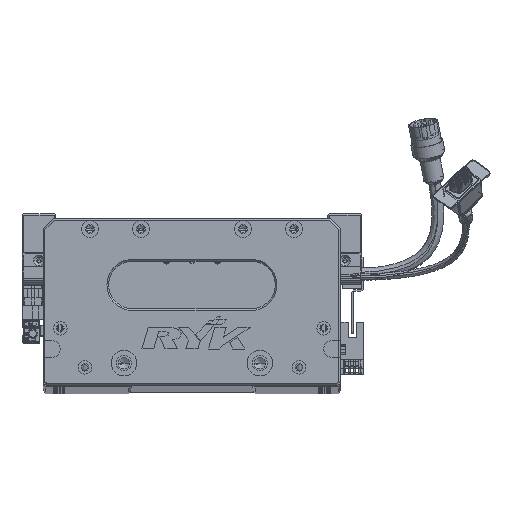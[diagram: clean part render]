
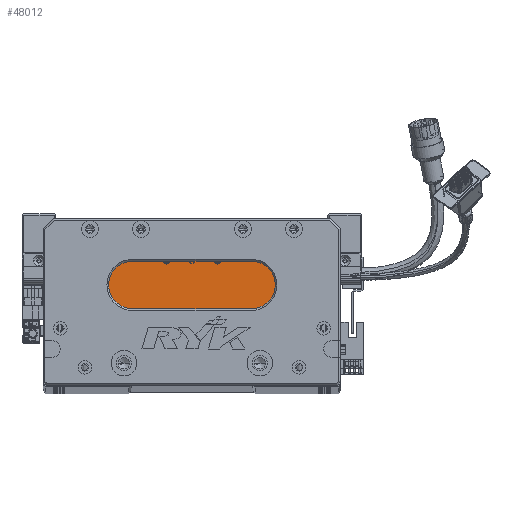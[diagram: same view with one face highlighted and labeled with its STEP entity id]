
A CAD part, top view. The second image highlights one B-rep face of the part: STEP entity #48012.
In plain terms, the highlighted planar face has unit normal (0, 0, 1) as drawn and (0, 0, -1) by its records, which use the part's own axes.
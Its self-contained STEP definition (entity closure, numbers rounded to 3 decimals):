
#136 = CIRCLE ( 'NONE', #45350, 14. ) ;
#5657 = VERTEX_POINT ( 'NONE', #31439 ) ;
#5894 = DIRECTION ( 'NONE',  ( 0., 0., -1. ) ) ;
#7062 = AXIS2_PLACEMENT_3D ( 'NONE', #45857, #110741, #19027 ) ;
#7070 = AXIS2_PLACEMENT_3D ( 'NONE', #111980, #28702, #110789 ) ;
#8471 = CIRCLE ( 'NONE', #7062, 14. ) ;
#11637 = ORIENTED_EDGE ( 'NONE', *, *, #28364, .T. ) ;
#18676 = ORIENTED_EDGE ( 'NONE', *, *, #54325, .T. ) ;
#19027 = DIRECTION ( 'NONE',  ( -1., 0., 0. ) ) ;
#21547 = EDGE_CURVE ( 'NONE', #84439, #5657, #136, .T. ) ;
#22243 = VECTOR ( 'NONE', #113520, 1000. ) ;
#23741 = CARTESIAN_POINT ( 'NONE',  ( 52.5, 45., 18. ) ) ;
#23912 = DIRECTION ( 'NONE',  ( -1., 0., 0. ) ) ;
#28364 = EDGE_CURVE ( 'NONE', #70142, #99614, #35433, .T. ) ;
#28702 = DIRECTION ( 'NONE',  ( 0., 0., -1. ) ) ;
#31439 = CARTESIAN_POINT ( 'NONE',  ( 38.5, 59., 18. ) ) ;
#32468 = CARTESIAN_POINT ( 'NONE',  ( 122.5, 45., 18. ) ) ;
#35433 = CIRCLE ( 'NONE', #76415, 14. ) ;
#41439 = VERTEX_POINT ( 'NONE', #95065 ) ;
#45350 = AXIS2_PLACEMENT_3D ( 'NONE', #73835, #45911, #101226 ) ;
#45857 = CARTESIAN_POINT ( 'NONE',  ( 52.5, 59., 18. ) ) ;
#45911 = DIRECTION ( 'NONE',  ( 0., 0., -1. ) ) ;
#48012 = ADVANCED_FACE ( 'NONE', ( #92408 ), #48256, .T. ) ;
#48256 = PLANE ( 'NONE',  #7070 ) ;
#50982 = EDGE_CURVE ( 'NONE', #41439, #70142, #114779, .T. ) ;
#52422 = DIRECTION ( 'NONE',  ( 1., 0., 0. ) ) ;
#53339 = CARTESIAN_POINT ( 'NONE',  ( 122.5, 73., 18. ) ) ;
#54325 = EDGE_CURVE ( 'NONE', #99614, #84439, #107822, .T. ) ;
#58326 = ORIENTED_EDGE ( 'NONE', *, *, #50982, .T. ) ;
#58584 = CARTESIAN_POINT ( 'NONE',  ( 122.5, 45., 18. ) ) ;
#69650 = EDGE_CURVE ( 'NONE', #5657, #41439, #8471, .T. ) ;
#70142 = VERTEX_POINT ( 'NONE', #53339 ) ;
#73835 = CARTESIAN_POINT ( 'NONE',  ( 52.5, 59., 18. ) ) ;
#76415 = AXIS2_PLACEMENT_3D ( 'NONE', #105662, #5894, #23912 ) ;
#84439 = VERTEX_POINT ( 'NONE', #23741 ) ;
#84856 = ORIENTED_EDGE ( 'NONE', *, *, #69650, .T. ) ;
#92408 = FACE_OUTER_BOUND ( 'NONE', #107080, .T. ) ;
#92724 = ORIENTED_EDGE ( 'NONE', *, *, #21547, .T. ) ;
#95065 = CARTESIAN_POINT ( 'NONE',  ( 52.5, 73., 18. ) ) ;
#97057 = CARTESIAN_POINT ( 'NONE',  ( 122.5, 73., 18. ) ) ;
#99614 = VERTEX_POINT ( 'NONE', #32468 ) ;
#101226 = DIRECTION ( 'NONE',  ( -1., 0., 0. ) ) ;
#105662 = CARTESIAN_POINT ( 'NONE',  ( 122.5, 59., 18. ) ) ;
#107080 = EDGE_LOOP ( 'NONE', ( #11637, #18676, #92724, #84856, #58326 ) ) ;
#107822 = LINE ( 'NONE', #58584, #22243 ) ;
#110741 = DIRECTION ( 'NONE',  ( 0., 0., -1. ) ) ;
#110789 = DIRECTION ( 'NONE',  ( -1., 0., 0. ) ) ;
#111980 = CARTESIAN_POINT ( 'NONE',  ( 122.5, 59., 18. ) ) ;
#113294 = VECTOR ( 'NONE', #52422, 1000. ) ;
#113520 = DIRECTION ( 'NONE',  ( -1., 0., 0. ) ) ;
#114779 = LINE ( 'NONE', #97057, #113294 ) ;
